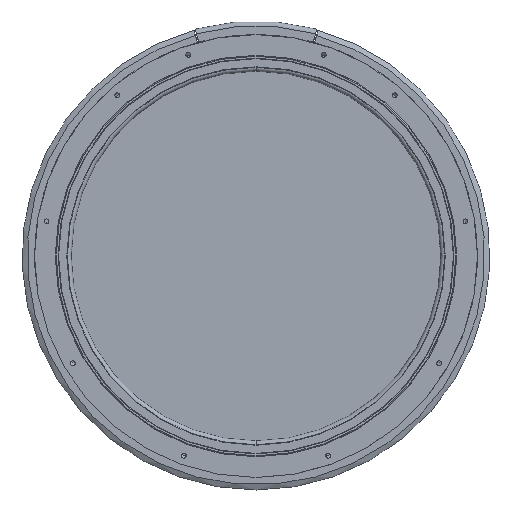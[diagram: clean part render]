
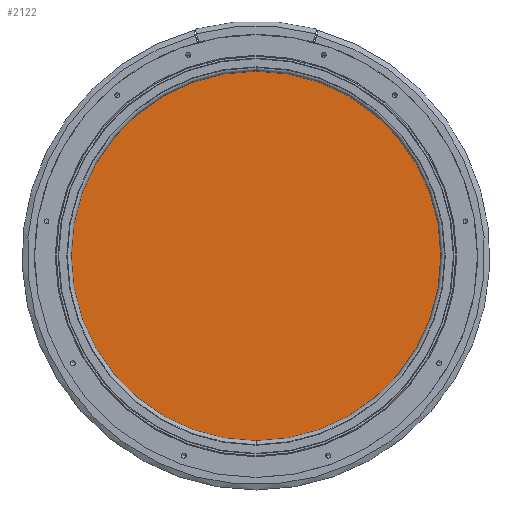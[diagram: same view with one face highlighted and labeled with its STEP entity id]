
A CAD part, front view. The second image highlights one B-rep face of the part: STEP entity #2122.
In plain terms, the highlighted planar face has unit normal (0, -1, 0).
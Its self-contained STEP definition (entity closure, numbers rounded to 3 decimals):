
#192 = EDGE_CURVE ( 'NONE', #3384, #684, #2205, .T. ) ;
#637 = PLANE ( 'NONE',  #1180 ) ;
#684 = VERTEX_POINT ( 'NONE', #2869 ) ;
#1180 = AXIS2_PLACEMENT_3D ( 'NONE', #3381, #3363, #2203 ) ;
#1226 = ORIENTED_EDGE ( 'NONE', *, *, #4857, .T. ) ;
#1280 = DIRECTION ( 'NONE',  ( 0., 0., -1. ) ) ;
#2122 = ADVANCED_FACE ( 'NONE', ( #4941 ), #637, .F. ) ;
#2129 = DIRECTION ( 'NONE',  ( 0., -1., 0. ) ) ;
#2203 = DIRECTION ( 'NONE',  ( 0., 0., 1. ) ) ;
#2205 = CIRCLE ( 'NONE', #2232, 192. ) ;
#2232 = AXIS2_PLACEMENT_3D ( 'NONE', #5065, #3462, #3507 ) ;
#2761 = CARTESIAN_POINT ( 'NONE',  ( 0., 22.15, -192. ) ) ;
#2869 = CARTESIAN_POINT ( 'NONE',  ( 0., 22.15, 192. ) ) ;
#3168 = CIRCLE ( 'NONE', #4391, 192. ) ;
#3288 = CARTESIAN_POINT ( 'NONE',  ( 0., 22.15, 0. ) ) ;
#3363 = DIRECTION ( 'NONE',  ( 0., 1., 0. ) ) ;
#3381 = CARTESIAN_POINT ( 'NONE',  ( 0., 22.15, 192. ) ) ;
#3384 = VERTEX_POINT ( 'NONE', #2761 ) ;
#3462 = DIRECTION ( 'NONE',  ( 0., -1., 0. ) ) ;
#3494 = EDGE_LOOP ( 'NONE', ( #4437, #1226 ) ) ;
#3507 = DIRECTION ( 'NONE',  ( 0., 0., -1. ) ) ;
#4391 = AXIS2_PLACEMENT_3D ( 'NONE', #3288, #2129, #1280 ) ;
#4437 = ORIENTED_EDGE ( 'NONE', *, *, #192, .T. ) ;
#4857 = EDGE_CURVE ( 'NONE', #684, #3384, #3168, .T. ) ;
#4941 = FACE_OUTER_BOUND ( 'NONE', #3494, .T. ) ;
#5065 = CARTESIAN_POINT ( 'NONE',  ( 0., 22.15, 0. ) ) ;
